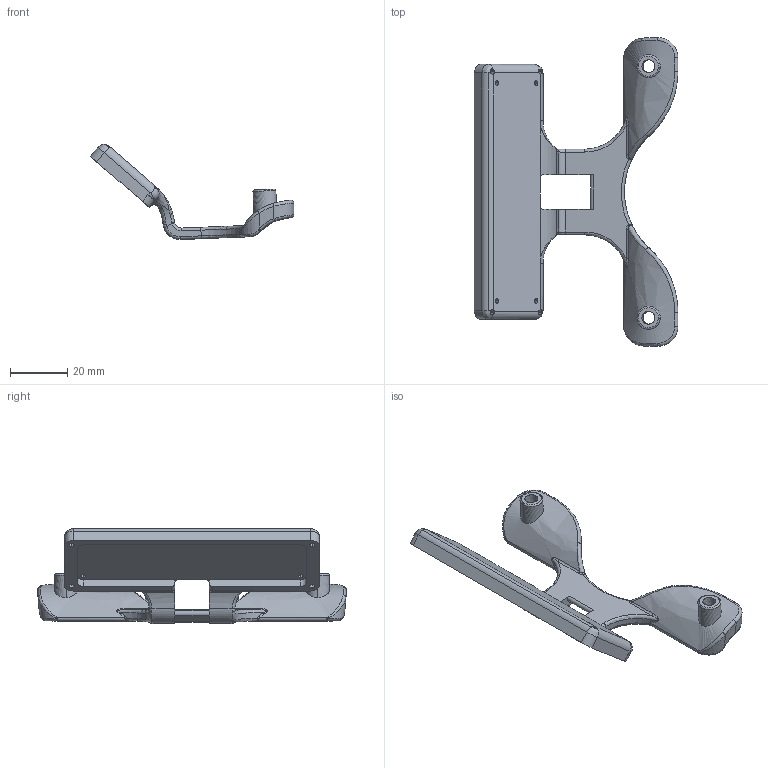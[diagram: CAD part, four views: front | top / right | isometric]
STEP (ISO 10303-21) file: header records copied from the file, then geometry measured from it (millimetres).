
FILE_DESCRIPTION (( 'STEP AP203' ), '1' );
FILE_NAME ('双目相机安装支架7.24.STEP', '2025-07-24T08:20:28', ( '' ), ( '' ), 'SwSTEP 2.0', 'SolidWorks 2023', '' );
FILE_SCHEMA (( 'CONFIG_CONTROL_DESIGN' ));
Length unit declared in the file: millimetre
Products named in the file (1): 双目相机安装支架7.24
Bounding box: 71.22 x 107.94 x 33.26 mm (x, y, z)
Volume: 22044.4 mm3; surface area: 13427.3 mm2
Topology: 1 solids, 1 shells, 219 faces, 575 edges, 346 vertices
Faces by surface type: bspline 90, cylinder 82, plane 29, torus 16, sphere 2
Entity records: 11838 total; most frequent: CARTESIAN_POINT 7083, ORIENTED_EDGE 1130, DIRECTION 785, EDGE_CURVE 565, VERTEX_POINT 346, AXIS2_PLACEMENT_3D 310, EDGE_LOOP 239, ADVANCED_FACE 219
